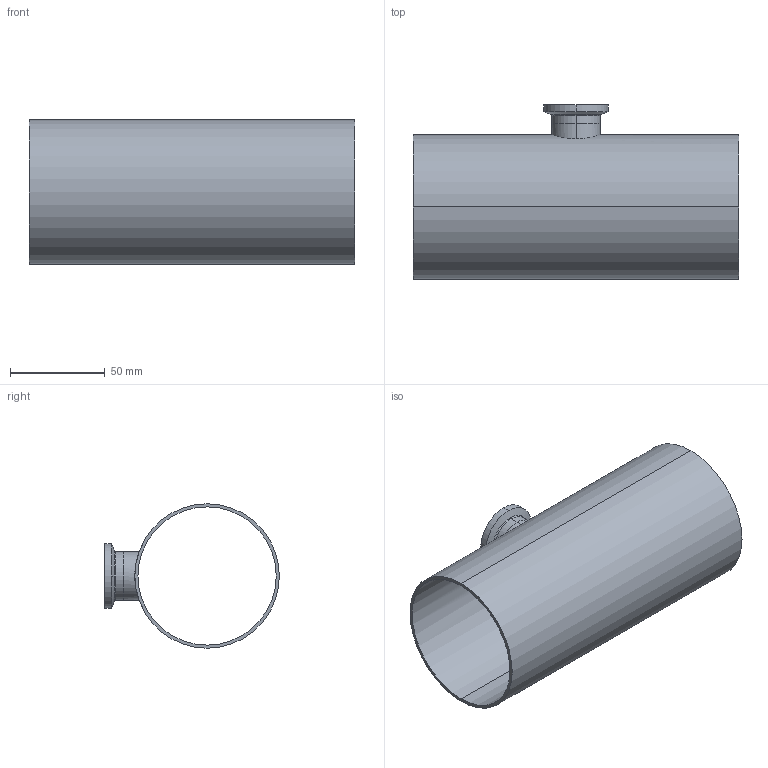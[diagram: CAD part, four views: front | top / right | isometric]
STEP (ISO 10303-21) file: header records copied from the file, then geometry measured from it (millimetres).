
FILE_DESCRIPTION (( 'STEP AP214' ), '1' );
FILE_NAME ('TE7RWWCS6L3.0x1.0-..Type A.STEP', '2016-05-23T12:17:54', ( 'eran' ), ( '' ), 'SwSTEP 2.0', 'SolidWorks 2016', '' );
FILE_SCHEMA (( 'AUTOMOTIVE_DESIGN' ));
Length unit declared in the file: millimetre
Products named in the file (1): TE7RWWCS6L3.0x1.0-..Type A
Bounding box: 171.4 x 92.1 x 76.2 mm (x, y, z)
Volume: 68949.9 mm3; surface area: 84089.8 mm2
Topology: 2 solids, 2 shells, 34 faces, 76 edges, 48 vertices
Faces by surface type: cylinder 16, bspline 8, plane 6, cone 4
Entity records: 1287 total; most frequent: CARTESIAN_POINT 479, DIRECTION 170, ORIENTED_EDGE 152, EDGE_CURVE 76, AXIS2_PLACEMENT_3D 75, VERTEX_POINT 48, CIRCLE 48, EDGE_LOOP 42
